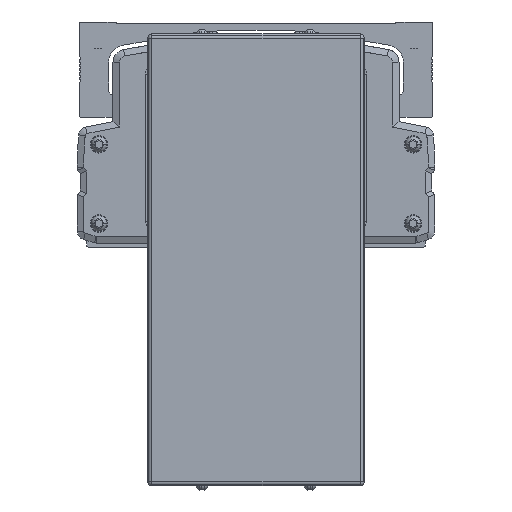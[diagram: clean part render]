
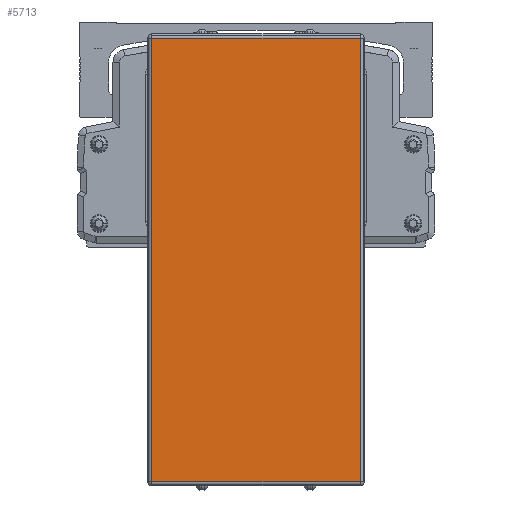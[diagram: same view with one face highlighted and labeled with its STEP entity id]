
A CAD part, front view. The second image highlights one B-rep face of the part: STEP entity #5713.
In plain terms, the highlighted planar face has unit normal (0, -1, 0).
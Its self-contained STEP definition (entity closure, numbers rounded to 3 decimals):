
#5713=ADVANCED_FACE('',(#12320),#12321,.T.);
#12320=FACE_OUTER_BOUND('',#20938,.T.);
#12321=PLANE('',#20939);
#20938=EDGE_LOOP('',(#39102,#39103,#39104,#39105));
#20939=AXIS2_PLACEMENT_3D('',#39106,#39107,#39108);
#39102=ORIENTED_EDGE('',*,*,#53286,.F.);
#39103=ORIENTED_EDGE('',*,*,#48400,.F.);
#39104=ORIENTED_EDGE('',*,*,#53287,.F.);
#39105=ORIENTED_EDGE('',*,*,#46643,.F.);
#39106=CARTESIAN_POINT('',(-600.,-472.778,-57.8));
#39107=DIRECTION('',(0.,-1.0,0.));
#39108=DIRECTION('',(0.,0.,-1.0));
#46643=EDGE_CURVE('',#55497,#55499,#55500,.T.);
#48400=EDGE_CURVE('',#58619,#55043,#58621,.T.);
#53286=EDGE_CURVE('',#55043,#55497,#65692,.T.);
#53287=EDGE_CURVE('',#55499,#58619,#65693,.T.);
#55043=VERTEX_POINT('',#67705);
#55497=VERTEX_POINT('',#68415);
#55499=VERTEX_POINT('',#68417);
#55500=LINE('',#68418,#68419);
#58619=VERTEX_POINT('',#73342);
#58621=LINE('',#73344,#73345);
#65692=LINE('',#83908,#83909);
#65693=LINE('',#83910,#83911);
#67705=CARTESIAN_POINT('',(-648.,-472.778,44.5));
#68415=CARTESIAN_POINT('',(-552.,-472.778,44.5));
#68417=CARTESIAN_POINT('',(-552.,-472.778,-160.1));
#68418=CARTESIAN_POINT('',(-552.,-472.778,-57.8));
#68419=VECTOR('',#86794,10.0);
#73342=CARTESIAN_POINT('',(-648.,-472.778,-160.1));
#73344=CARTESIAN_POINT('',(-648.,-472.778,-57.8));
#73345=VECTOR('',#88842,10.0);
#83908=CARTESIAN_POINT('',(-600.,-472.778,44.5));
#83909=VECTOR('',#95101,10.0);
#83910=CARTESIAN_POINT('',(-600.,-472.778,-160.1));
#83911=VECTOR('',#95102,10.0);
#86794=DIRECTION('',(0.,0.,-1.0));
#88842=DIRECTION('',(0.,0.,1.0));
#95101=DIRECTION('',(1.0,0.,0.));
#95102=DIRECTION('',(-1.0,0.,0.));
